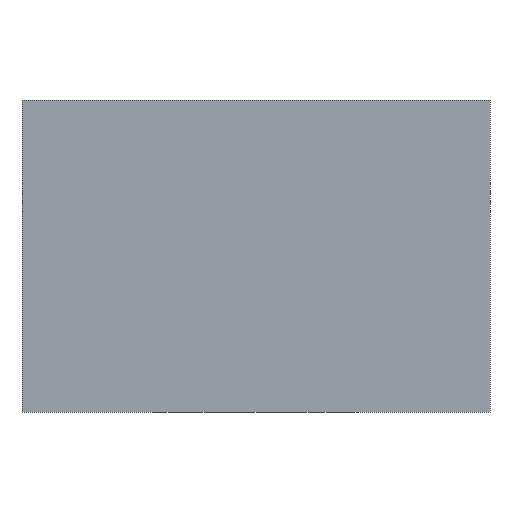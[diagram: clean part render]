
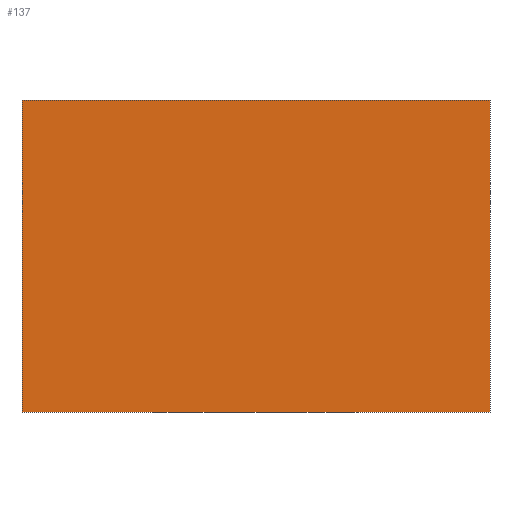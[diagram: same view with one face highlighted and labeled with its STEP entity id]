
A CAD part, front view. The second image highlights one B-rep face of the part: STEP entity #137.
In plain terms, the highlighted planar face has unit normal (0, -1, 0).
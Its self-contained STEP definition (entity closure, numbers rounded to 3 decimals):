
#21 = EDGE_CURVE('',#22,#24,#26,.T.);
#22 = VERTEX_POINT('',#23);
#23 = CARTESIAN_POINT('',(-158.,57.,70.));
#24 = VERTEX_POINT('',#25);
#25 = CARTESIAN_POINT('',(-158.,57.,82.));
#26 = SURFACE_CURVE('',#27,(#31,#43),.PCURVE_S1.);
#27 = LINE('',#28,#29);
#28 = CARTESIAN_POINT('',(-158.,57.,70.));
#29 = VECTOR('',#30,1.);
#30 = DIRECTION('',(0.,0.,1.));
#31 = PCURVE('',#32,#37);
#32 = PLANE('',#33);
#33 = AXIS2_PLACEMENT_3D('',#34,#35,#36);
#34 = CARTESIAN_POINT('',(-158.,57.,70.));
#35 = DIRECTION('',(1.,0.,0.));
#36 = DIRECTION('',(0.,0.,1.));
#37 = DEFINITIONAL_REPRESENTATION('',(#38),#42);
#38 = LINE('',#39,#40);
#39 = CARTESIAN_POINT('',(0.,0.));
#40 = VECTOR('',#41,1.);
#41 = DIRECTION('',(1.,0.));
#42 = ( GEOMETRIC_REPRESENTATION_CONTEXT(2) 
PARAMETRIC_REPRESENTATION_CONTEXT() REPRESENTATION_CONTEXT('2D SPACE',''
  ) );
#43 = PCURVE('',#44,#49);
#44 = PLANE('',#45);
#45 = AXIS2_PLACEMENT_3D('',#46,#47,#48);
#46 = CARTESIAN_POINT('',(-158.,57.,70.));
#47 = DIRECTION('',(0.,1.,0.));
#48 = DIRECTION('',(0.,0.,1.));
#49 = DEFINITIONAL_REPRESENTATION('',(#50),#54);
#50 = LINE('',#51,#52);
#51 = CARTESIAN_POINT('',(0.,0.));
#52 = VECTOR('',#53,1.);
#53 = DIRECTION('',(1.,0.));
#54 = ( GEOMETRIC_REPRESENTATION_CONTEXT(2) 
PARAMETRIC_REPRESENTATION_CONTEXT() REPRESENTATION_CONTEXT('2D SPACE',''
  ) );
#72 = PLANE('',#73);
#73 = AXIS2_PLACEMENT_3D('',#74,#75,#76);
#74 = CARTESIAN_POINT('',(-158.,57.,70.));
#75 = DIRECTION('',(0.,0.,1.));
#76 = DIRECTION('',(1.,0.,0.));
#126 = PLANE('',#127);
#127 = AXIS2_PLACEMENT_3D('',#128,#129,#130);
#128 = CARTESIAN_POINT('',(-158.,57.,82.));
#129 = DIRECTION('',(0.,0.,1.));
#130 = DIRECTION('',(1.,0.,0.));
#137 = ADVANCED_FACE('',(#138),#44,.F.);
#138 = FACE_BOUND('',#139,.F.);
#139 = EDGE_LOOP('',(#140,#163,#164,#187));
#140 = ORIENTED_EDGE('',*,*,#141,.F.);
#141 = EDGE_CURVE('',#22,#142,#144,.T.);
#142 = VERTEX_POINT('',#143);
#143 = CARTESIAN_POINT('',(-140.,57.,70.));
#144 = SURFACE_CURVE('',#145,(#149,#156),.PCURVE_S1.);
#145 = LINE('',#146,#147);
#146 = CARTESIAN_POINT('',(-158.,57.,70.));
#147 = VECTOR('',#148,1.);
#148 = DIRECTION('',(1.,0.,0.));
#149 = PCURVE('',#44,#150);
#150 = DEFINITIONAL_REPRESENTATION('',(#151),#155);
#151 = LINE('',#152,#153);
#152 = CARTESIAN_POINT('',(0.,0.));
#153 = VECTOR('',#154,1.);
#154 = DIRECTION('',(0.,1.));
#155 = ( GEOMETRIC_REPRESENTATION_CONTEXT(2) 
PARAMETRIC_REPRESENTATION_CONTEXT() REPRESENTATION_CONTEXT('2D SPACE',''
  ) );
#156 = PCURVE('',#72,#157);
#157 = DEFINITIONAL_REPRESENTATION('',(#158),#162);
#158 = LINE('',#159,#160);
#159 = CARTESIAN_POINT('',(0.,0.));
#160 = VECTOR('',#161,1.);
#161 = DIRECTION('',(1.,0.));
#162 = ( GEOMETRIC_REPRESENTATION_CONTEXT(2) 
PARAMETRIC_REPRESENTATION_CONTEXT() REPRESENTATION_CONTEXT('2D SPACE',''
  ) );
#163 = ORIENTED_EDGE('',*,*,#21,.T.);
#164 = ORIENTED_EDGE('',*,*,#165,.T.);
#165 = EDGE_CURVE('',#24,#166,#168,.T.);
#166 = VERTEX_POINT('',#167);
#167 = CARTESIAN_POINT('',(-140.,57.,82.));
#168 = SURFACE_CURVE('',#169,(#173,#180),.PCURVE_S1.);
#169 = LINE('',#170,#171);
#170 = CARTESIAN_POINT('',(-158.,57.,82.));
#171 = VECTOR('',#172,1.);
#172 = DIRECTION('',(1.,0.,0.));
#173 = PCURVE('',#44,#174);
#174 = DEFINITIONAL_REPRESENTATION('',(#175),#179);
#175 = LINE('',#176,#177);
#176 = CARTESIAN_POINT('',(12.,0.));
#177 = VECTOR('',#178,1.);
#178 = DIRECTION('',(0.,1.));
#179 = ( GEOMETRIC_REPRESENTATION_CONTEXT(2) 
PARAMETRIC_REPRESENTATION_CONTEXT() REPRESENTATION_CONTEXT('2D SPACE',''
  ) );
#180 = PCURVE('',#126,#181);
#181 = DEFINITIONAL_REPRESENTATION('',(#182),#186);
#182 = LINE('',#183,#184);
#183 = CARTESIAN_POINT('',(0.,0.));
#184 = VECTOR('',#185,1.);
#185 = DIRECTION('',(1.,0.));
#186 = ( GEOMETRIC_REPRESENTATION_CONTEXT(2) 
PARAMETRIC_REPRESENTATION_CONTEXT() REPRESENTATION_CONTEXT('2D SPACE',''
  ) );
#187 = ORIENTED_EDGE('',*,*,#188,.F.);
#188 = EDGE_CURVE('',#142,#166,#189,.T.);
#189 = SURFACE_CURVE('',#190,(#194,#201),.PCURVE_S1.);
#190 = LINE('',#191,#192);
#191 = CARTESIAN_POINT('',(-140.,57.,70.));
#192 = VECTOR('',#193,1.);
#193 = DIRECTION('',(0.,0.,1.));
#194 = PCURVE('',#44,#195);
#195 = DEFINITIONAL_REPRESENTATION('',(#196),#200);
#196 = LINE('',#197,#198);
#197 = CARTESIAN_POINT('',(0.,18.));
#198 = VECTOR('',#199,1.);
#199 = DIRECTION('',(1.,0.));
#200 = ( GEOMETRIC_REPRESENTATION_CONTEXT(2) 
PARAMETRIC_REPRESENTATION_CONTEXT() REPRESENTATION_CONTEXT('2D SPACE',''
  ) );
#201 = PCURVE('',#202,#207);
#202 = PLANE('',#203);
#203 = AXIS2_PLACEMENT_3D('',#204,#205,#206);
#204 = CARTESIAN_POINT('',(-140.,57.,70.));
#205 = DIRECTION('',(1.,0.,0.));
#206 = DIRECTION('',(0.,0.,1.));
#207 = DEFINITIONAL_REPRESENTATION('',(#208),#212);
#208 = LINE('',#209,#210);
#209 = CARTESIAN_POINT('',(0.,0.));
#210 = VECTOR('',#211,1.);
#211 = DIRECTION('',(1.,0.));
#212 = ( GEOMETRIC_REPRESENTATION_CONTEXT(2) 
PARAMETRIC_REPRESENTATION_CONTEXT() REPRESENTATION_CONTEXT('2D SPACE',''
  ) );
